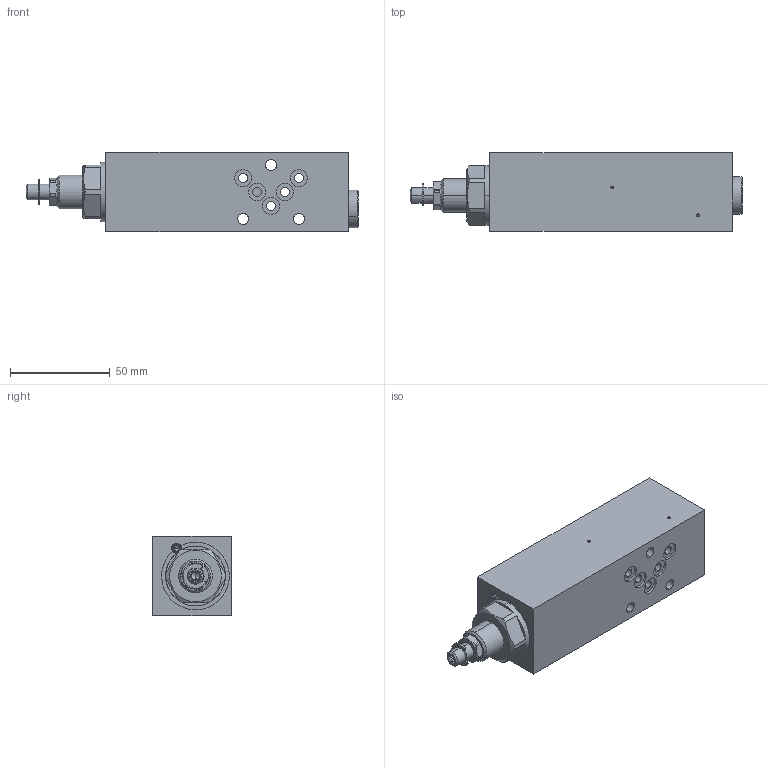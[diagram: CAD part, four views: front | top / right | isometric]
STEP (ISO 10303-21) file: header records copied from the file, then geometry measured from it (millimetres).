
FILE_DESCRIPTION (( 'STEP AP214' ), '1' );
FILE_NAME ('MVSSA04-A.STEP', '2017-03-23T06:31:33', ( '' ), ( '' ), 'SwSTEP 2.0', 'SolidWorks 2016', '' );
FILE_SCHEMA (( 'AUTOMOTIVE_DESIGN' ));
Length unit declared in the file: millimetre
Products named in the file (1): MVSSA04-A
Bounding box: 166.8 x 39.5 x 40 mm (x, y, z)
Volume: 198213.9 mm3; surface area: 32071.7 mm2
Topology: 6 solids, 9 shells, 348 faces, 864 edges, 536 vertices
Faces by surface type: plane 138, cylinder 118, cone 82, sphere 8, torus 2
Entity records: 14336 total; most frequent: CARTESIAN_POINT 2257, DIRECTION 1801, ORIENTED_EDGE 1676, EDGE_CURVE 838, AXIS2_PLACEMENT_3D 714, VERTEX_POINT 536, EDGE_LOOP 390, VECTOR 373
